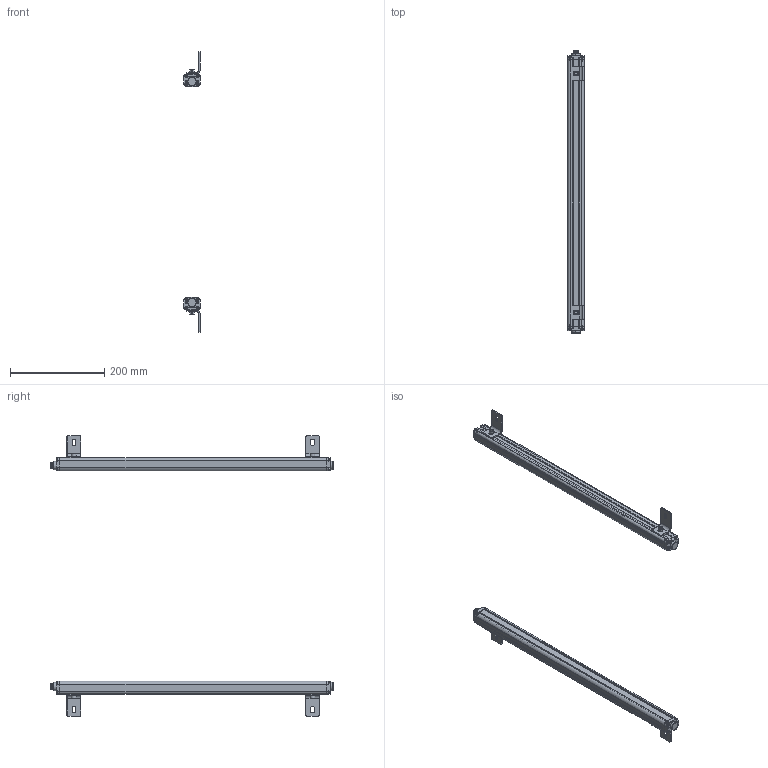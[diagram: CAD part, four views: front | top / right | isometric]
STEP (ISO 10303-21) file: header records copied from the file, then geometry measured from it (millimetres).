
FILE_DESCRIPTION (( 'STEP AP214' ), '1' );
FILE_NAME ('elg1440.STEP', '2018-03-08T12:04:23', ( '' ), ( '' ), 'SwSTEP 2.0', 'SolidWorks 2017', '' );
FILE_SCHEMA (( 'AUTOMOTIVE_DESIGN' ));
Length unit declared in the file: millimetre
Products named in the file (11): bz1-1440; hk-1440; lx-1440; glgdg-1440; elgw-1440; elgdg03-1440; czzj-1440; lgp-1440; dlx-1440; elg1440; hkct1-1440
Assembly tree (40 placements, depth 2):
  elg1440
    elgw-1440  x2
    bz1-1440  x2
    lgp-1440  x2
    glgdg-1440  x2
    elgdg03-1440  x2
    hkct1-1440  x2
    lx-1440  x16
    hk-1440  x4
    czzj-1440  x4
    dlx-1440  x4
Bounding box: 34.7 x 597.6 x 594 mm (x, y, z)
Volume: 430655.5 mm3; surface area: 452281.7 mm2
Topology: 40 solids, 40 shells, 2112 faces, 5536 edges, 3536 vertices
Faces by surface type: cylinder 1008, plane 688, bspline 416
Entity records: 142513 total; most frequent: CARTESIAN_POINT 128062, ORIENTED_EDGE 3060, DIRECTION 2702, EDGE_CURVE 1530, VERTEX_POINT 984, AXIS2_PLACEMENT_3D 973, VECTOR 756, LINE 756
